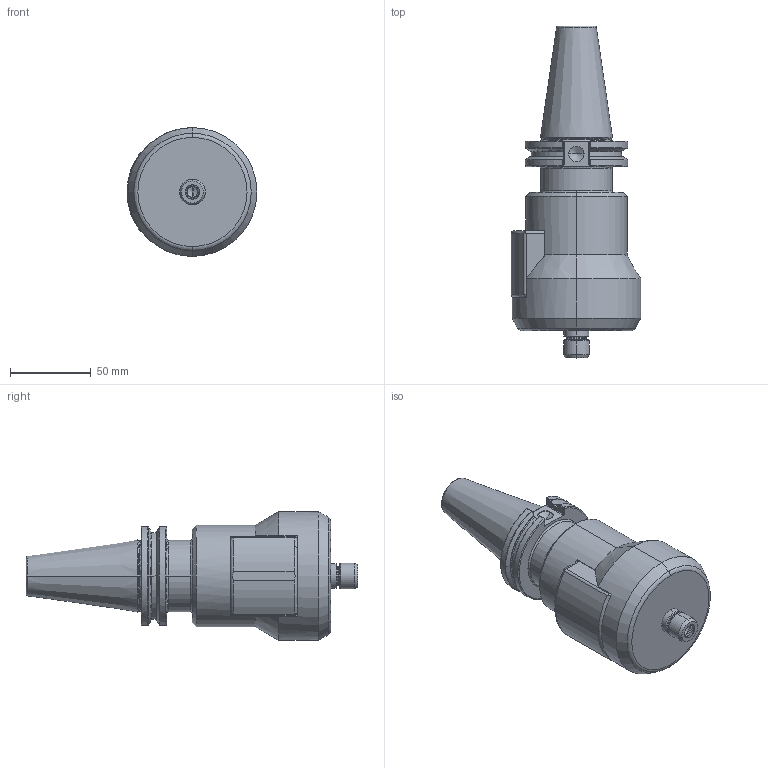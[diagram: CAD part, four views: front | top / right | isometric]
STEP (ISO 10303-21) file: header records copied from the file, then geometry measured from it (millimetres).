
FILE_DESCRIPTION (( 'STEP AP214' ), '1' );
FILE_NAME ('TJS-HPC-CAT40-Detail.STEP', '2018-05-03T10:28:06', ( '' ), ( '' ), 'SwSTEP 2.0', 'SolidWorks 2015', '' );
FILE_SCHEMA (( 'AUTOMOTIVE_DESIGN' ));
Length unit declared in the file: millimetre
Products named in the file (1): TJS-HPC-CAT40-Detail
Bounding box: 80.55 x 206.1 x 80 mm (x, y, z)
Volume: 480455 mm3; surface area: 50718.2 mm2
Topology: 1 solids, 1 shells, 191 faces, 488 edges, 302 vertices
Faces by surface type: cylinder 54, plane 51, cone 47, torus 36, sphere 2, bspline 1
Entity records: 6943 total; most frequent: CARTESIAN_POINT 2367, ORIENTED_EDGE 960, DIRECTION 949, EDGE_CURVE 480, AXIS2_PLACEMENT_3D 380, VERTEX_POINT 302, EDGE_LOOP 202, ADVANCED_FACE 191
